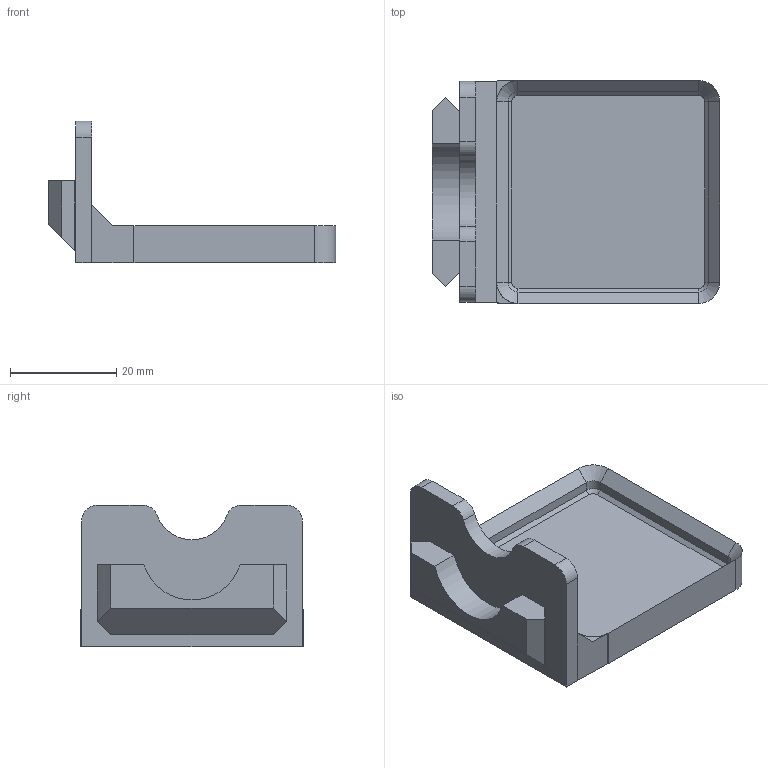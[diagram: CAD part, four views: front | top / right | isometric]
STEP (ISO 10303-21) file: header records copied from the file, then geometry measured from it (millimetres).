
FILE_DESCRIPTION(/* description */ ('','CAx-IF Rec.Pracs.---Representation and Presentation of Product Manufacturing Information (PMI)---4.0---2014-10-13'),/* implementation_level */ '2;1');
FILE_NAME(/* name */ 'Goews Single Hanger Gridfinity Base v1.step',/* time_stamp */ '2024-11-27T21:11:48-05:00',/* author */ (''),/* organization */ (''),/* preprocessor_version */ 'ST-DEVELOPER v20',/* originating_system */ 'Autodesk Translation Framework v13.20.0.188',/* authorisation */ '');
FILE_SCHEMA (('AP242_MANAGED_MODEL_BASED_3D_ENGINEERING_MIM_LF { 1 0 10303 442 1 1 4 }'));
Length unit declared in the file: millimetre
Products named in the file (1): Goews Single Hanger Gridfinity Base
Bounding box: 54.15 x 42 x 26.72 mm (x, y, z)
Volume: 11365.3 mm3; surface area: 7763.8 mm2
Topology: 1 solids, 1 shells, 62 faces, 147 edges, 88 vertices
Faces by surface type: plane 40, cylinder 14, cone 8
Entity records: 1778 total; most frequent: DIRECTION 307, CARTESIAN_POINT 298, ORIENTED_EDGE 294, EDGE_CURVE 147, LINE 113, VECTOR 113, AXIS2_PLACEMENT_3D 97, VERTEX_POINT 88
